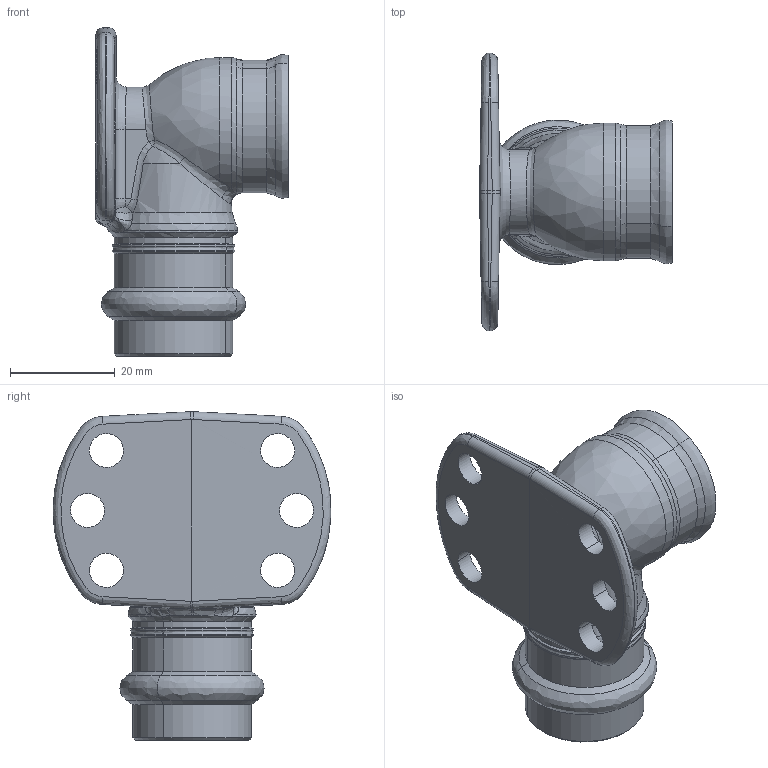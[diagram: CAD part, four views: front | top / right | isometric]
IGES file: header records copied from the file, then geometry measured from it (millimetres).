
Start section: 3D InterOp IGES (v. 2024 1.0.1), Spatial Corp. Copyright (c) 1999-2020.
Global section: file name: 1160677.igs; native system: Spatial Corp.; preprocessor: 3D InterOp ACIS/IGES; author: CAD-PIM; organization: TransMagic, Inc.; date: 20250811.095408; units: millimetre
Bounding box: 36.92 x 53.19 x 62.9 mm (x, y, z)
Volume: 24249.4 mm3; surface area: 11346.9 mm2
Topology: 1 solids, 1 shells, 136 faces, 344 edges, 207 vertices
Faces by surface type: bspline 136
